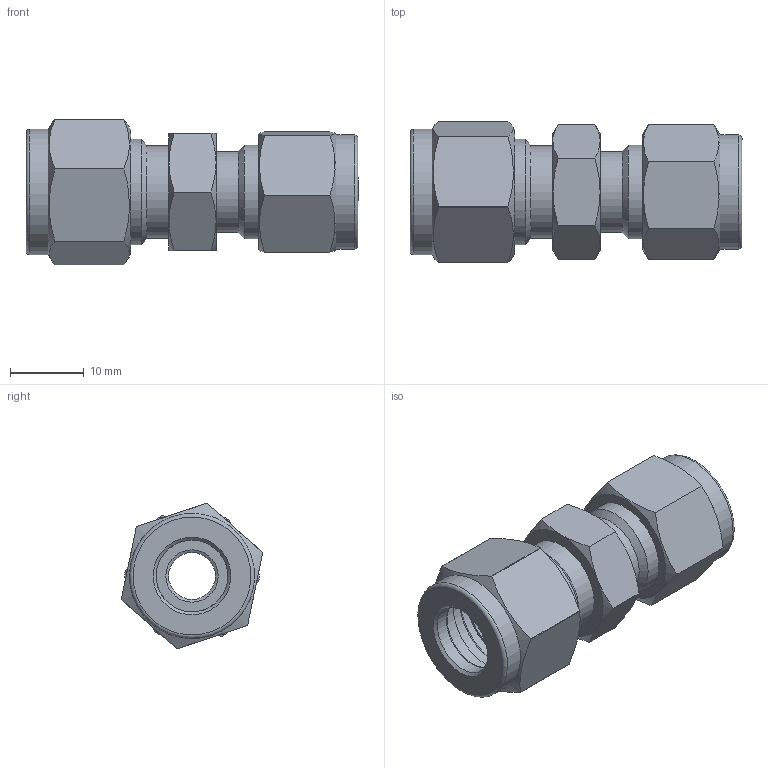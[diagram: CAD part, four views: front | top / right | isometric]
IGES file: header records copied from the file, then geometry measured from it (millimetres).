
Global section: file name: No Iges File Name specified; native system: Autodesk Inventor 2012; preprocessor: AutoDesk Inventor Iges Exporter R2012; author: 硅己绕,,1; organization: 1; date: 20150428.083559; units: millimetre
Bounding box: 45.08 x 19.17 x 19.76 mm (x, y, z)
Volume: 5838.3 mm3; surface area: 5578.9 mm2
Topology: 3 solids, 3 shells, 92 faces, 193 edges, 115 vertices
Faces by surface type: plane 32, revolution 22, cone 20, cylinder 14, torus 4
Full cylindrical faces by diameter (mm): 11 x2, 12.5 x1, 12.55 x1, 12.7 x1, 14.28 x1, 15.5 x1, 17 x1
